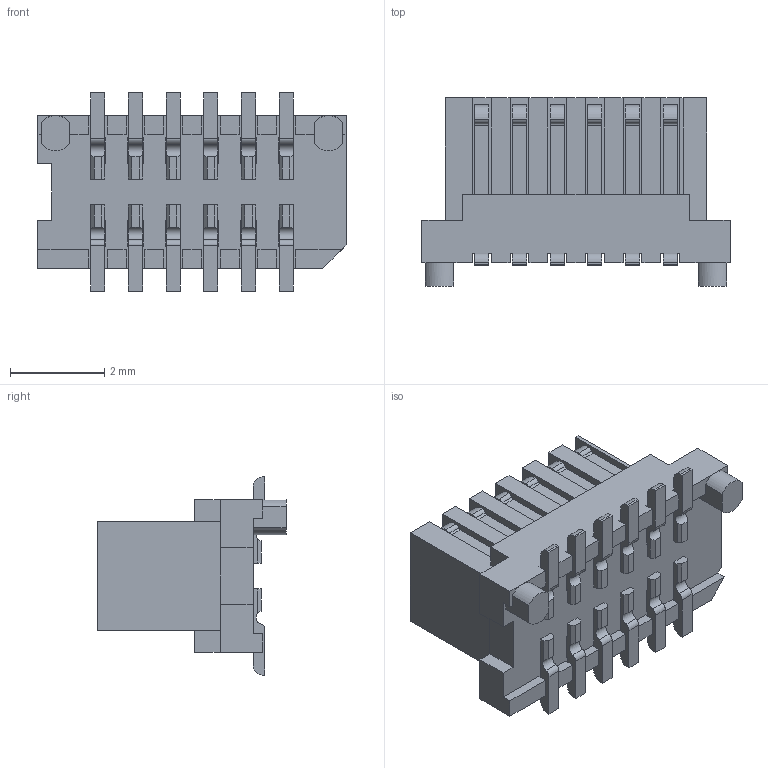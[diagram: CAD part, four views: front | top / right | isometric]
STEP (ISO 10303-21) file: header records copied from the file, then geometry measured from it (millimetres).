
FILE_DESCRIPTION (( 'STEP AP203' ), '1' );
FILE_NAME ('HC-PBB08-1-12-M-S-H3.55-XX-R-P-06 (BTB0.8 单槽 公座 立式侧插 座高3.55mm 编带 带柱)-HCTL.STEP', '2025-12-09T05:59:13', ( '' ), ( '' ), 'SwSTEP 2.0', 'SolidWorks 2025', '' );
FILE_SCHEMA (( 'CONFIG_CONTROL_DESIGN' ));
Length unit declared in the file: millimetre
Products named in the file (1): HC-PBB08-1-12-M-S-H3.55-XX-R-P-06 (BTB0.8 单槽 公座 立式侧插 座高3.55mm 编带 带柱)-HCTL
Bounding box: 6.55 x 4 x 4.21 mm (x, y, z)
Volume: 48.5 mm3; surface area: 212.2 mm2
Topology: 1 solids, 1 shells, 427 faces, 1393 edges, 920 vertices
Faces by surface type: plane 339, cylinder 88
Entity records: 15270 total; most frequent: CARTESIAN_POINT 2813, ORIENTED_EDGE 2786, DIRECTION 2403, EDGE_CURVE 1393, LINE 1191, VECTOR 1191, VERTEX_POINT 920, AXIS2_PLACEMENT_3D 606
